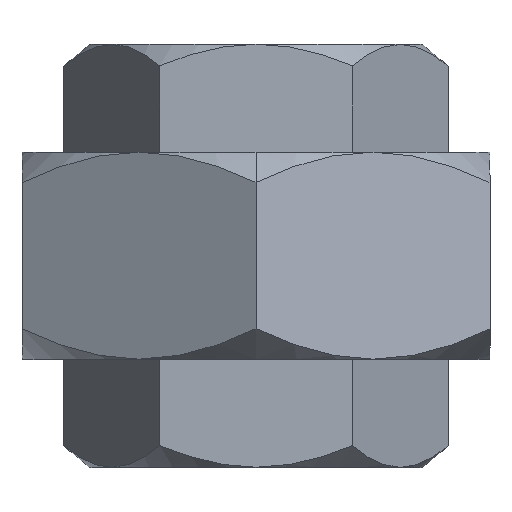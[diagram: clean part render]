
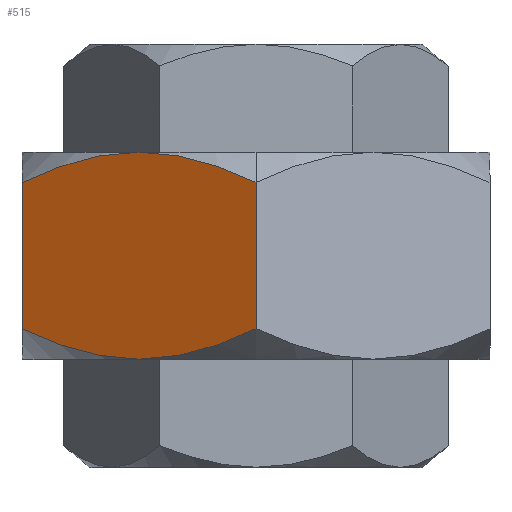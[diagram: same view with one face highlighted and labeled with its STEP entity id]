
A CAD part, top view. The second image highlights one B-rep face of the part: STEP entity #515.
In plain terms, the highlighted planar face has unit normal (-0.5, 0, 0.866).
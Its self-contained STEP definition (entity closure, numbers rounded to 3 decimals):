
#51 = B_SPLINE_CURVE_WITH_KNOTS ( 'NONE', 3,
 ( #2436, #2389, #2376, #2319, #2305, #2184, #2170, #2101, #2036, #1909 ),
 .UNSPECIFIED., .F., .F.,
 ( 4, 2, 2, 2, 4 ),
 ( 0., 0.008, 0.012, 0.013, 0.015 ),
 .UNSPECIFIED. ) ;
#57 = CARTESIAN_POINT ( 'NONE',  ( -20.149, -10.432, 18.389 ) ) ;
#98 = CARTESIAN_POINT ( 'NONE',  ( -2.092, 9.093, 28.815 ) ) ;
#106 = CARTESIAN_POINT ( 'NONE',  ( 0., -8.125, 30.022 ) ) ;
#181 = CARTESIAN_POINT ( 'NONE',  ( -13.558, 11.5, 22.195 ) ) ;
#223 = DIRECTION ( 'NONE',  ( -0.866, 0., -0.5 ) ) ;
#241 = DIRECTION ( 'NONE',  ( 0.5, 0., -0.866 ) ) ;
#260 = CARTESIAN_POINT ( 'NONE',  ( -26., 11.5, 15.011 ) ) ;
#277 = PLANE ( 'NONE',  #420 ) ;
#312 = DIRECTION ( 'NONE',  ( 0., -1., 0. ) ) ;
#332 = CARTESIAN_POINT ( 'NONE',  ( -17.436, -11.172, 19.955 ) ) ;
#367 = CARTESIAN_POINT ( 'NONE',  ( -3.694, 9.715, 27.89 ) ) ;
#420 = AXIS2_PLACEMENT_3D ( 'NONE', #260, #241, #223 ) ;
#463 = CARTESIAN_POINT ( 'NONE',  ( -13., -11.5, 22.517 ) ) ;
#469 = CARTESIAN_POINT ( 'NONE',  ( -14.118, 11.48, 21.871 ) ) ;
#515 = ADVANCED_FACE ( 'NONE', ( #1203 ), #277, .F. ) ;
#542 = CARTESIAN_POINT ( 'NONE',  ( -26., 8.125, 15.011 ) ) ;
#552 = CARTESIAN_POINT ( 'NONE',  ( -26., 8.125, 15.011 ) ) ;
#593 = CARTESIAN_POINT ( 'NONE',  ( -26., 11.5, 15.011 ) ) ;
#610 = VERTEX_POINT ( 'NONE', #758 ) ;
#618 = CARTESIAN_POINT ( 'NONE',  ( -15.237, -11.5, 21.225 ) ) ;
#638 = EDGE_CURVE ( 'NONE', #1005, #2586, #657, .T. ) ;
#657 = B_SPLINE_CURVE_WITH_KNOTS ( 'NONE', 3,
 ( #1419, #1197, #1066, #923, #854, #660, #367, #98, #2541, #2470 ),
 .UNSPECIFIED., .F., .F.,
 ( 4, 2, 2, 2, 4 ),
 ( 0.015, 0.023, 0.025, 0.027, 0.031 ),
 .UNSPECIFIED. ) ;
#660 = CARTESIAN_POINT ( 'NONE',  ( -4.232, 9.909, 27.579 ) ) ;
#689 = EDGE_CURVE ( 'NONE', #1695, #1763, #51, .T. ) ;
#738 = DIRECTION ( 'NONE',  ( 0., -1., 0. ) ) ;
#749 = CARTESIAN_POINT ( 'NONE',  ( -15.243, 11.399, 21.222 ) ) ;
#758 = CARTESIAN_POINT ( 'NONE',  ( -26., -8.125, 15.011 ) ) ;
#781 = ORIENTED_EDGE ( 'NONE', *, *, #2526, .F. ) ;
#791 = ORIENTED_EDGE ( 'NONE', *, *, #2488, .F. ) ;
#854 = CARTESIAN_POINT ( 'NONE',  ( -5.31, 10.268, 26.956 ) ) ;
#861 = LINE ( 'NONE', #593, #1724 ) ;
#863 = ORIENTED_EDGE ( 'NONE', *, *, #689, .F. ) ;
#887 = CARTESIAN_POINT ( 'NONE',  ( -13., -11.5, 22.517 ) ) ;
#923 = CARTESIAN_POINT ( 'NONE',  ( -5.851, 10.432, 26.644 ) ) ;
#976 = ORIENTED_EDGE ( 'NONE', *, *, #638, .F. ) ;
#997 = CARTESIAN_POINT ( 'NONE',  ( 0., 11.5, 30.022 ) ) ;
#1005 = VERTEX_POINT ( 'NONE', #1188 ) ;
#1009 = CARTESIAN_POINT ( 'NONE',  ( -15.806, 11.338, 20.897 ) ) ;
#1066 = CARTESIAN_POINT ( 'NONE',  ( -8.564, 11.172, 25.078 ) ) ;
#1099 = CARTESIAN_POINT ( 'NONE',  ( -26., -8.125, 15.011 ) ) ;
#1188 = CARTESIAN_POINT ( 'NONE',  ( -13., 11.5, 22.517 ) ) ;
#1197 = CARTESIAN_POINT ( 'NONE',  ( -10.763, 11.5, 23.808 ) ) ;
#1203 = FACE_OUTER_BOUND ( 'NONE', #1301, .T. ) ;
#1285 = LINE ( 'NONE', #997, #2266 ) ;
#1301 = EDGE_LOOP ( 'NONE', ( #863, #2366, #976, #791, #1766, #781 ) ) ;
#1302 = CARTESIAN_POINT ( 'NONE',  ( -17.476, 11.099, 19.933 ) ) ;
#1380 = CARTESIAN_POINT ( 'NONE',  ( -24.961, -8.629, 15.611 ) ) ;
#1405 = EDGE_CURVE ( 'NONE', #1499, #610, #861, .T. ) ;
#1419 = CARTESIAN_POINT ( 'NONE',  ( -13., 11.5, 22.517 ) ) ;
#1437 = B_SPLINE_CURVE_WITH_KNOTS ( 'NONE', 3,
 ( #542, #2109, #1852, #1583, #1302, #1009, #749, #469, #181, #2591 ),
 .UNSPECIFIED., .F., .F.,
 ( 4, 2, 2, 2, 4 ),
 ( 0., 0.008, 0.012, 0.013, 0.015 ),
 .UNSPECIFIED. ) ;
#1499 = VERTEX_POINT ( 'NONE', #552 ) ;
#1583 = CARTESIAN_POINT ( 'NONE',  ( -18.572, 10.864, 19.3 ) ) ;
#1660 = CARTESIAN_POINT ( 'NONE',  ( -23.908, -9.093, 16.219 ) ) ;
#1695 = VERTEX_POINT ( 'NONE', #106 ) ;
#1724 = VECTOR ( 'NONE', #312, 1000. ) ;
#1763 = VERTEX_POINT ( 'NONE', #463 ) ;
#1766 = ORIENTED_EDGE ( 'NONE', *, *, #1405, .T. ) ;
#1848 = B_SPLINE_CURVE_WITH_KNOTS ( 'NONE', 3,
 ( #887, #618, #332, #57, #2457, #2188, #1930, #1660, #1380, #1099 ),
 .UNSPECIFIED., .F., .F.,
 ( 4, 2, 2, 2, 4 ),
 ( 0.015, 0.023, 0.025, 0.027, 0.031 ),
 .UNSPECIFIED. ) ;
#1852 = CARTESIAN_POINT ( 'NONE',  ( -21.819, 9.973, 17.425 ) ) ;
#1909 = CARTESIAN_POINT ( 'NONE',  ( -13., -11.5, 22.517 ) ) ;
#1930 = CARTESIAN_POINT ( 'NONE',  ( -22.306, -9.715, 17.144 ) ) ;
#2014 = EDGE_CURVE ( 'NONE', #2586, #1695, #1285, .T. ) ;
#2036 = CARTESIAN_POINT ( 'NONE',  ( -12.442, -11.5, 22.839 ) ) ;
#2059 = CARTESIAN_POINT ( 'NONE',  ( 0., 8.125, 30.022 ) ) ;
#2101 = CARTESIAN_POINT ( 'NONE',  ( -11.882, -11.48, 23.162 ) ) ;
#2109 = CARTESIAN_POINT ( 'NONE',  ( -23.928, 9.129, 16.208 ) ) ;
#2170 = CARTESIAN_POINT ( 'NONE',  ( -10.757, -11.399, 23.812 ) ) ;
#2184 = CARTESIAN_POINT ( 'NONE',  ( -10.194, -11.338, 24.137 ) ) ;
#2188 = CARTESIAN_POINT ( 'NONE',  ( -21.768, -9.909, 17.454 ) ) ;
#2266 = VECTOR ( 'NONE', #738, 1000. ) ;
#2305 = CARTESIAN_POINT ( 'NONE',  ( -8.524, -11.099, 25.101 ) ) ;
#2319 = CARTESIAN_POINT ( 'NONE',  ( -7.428, -10.864, 25.734 ) ) ;
#2366 = ORIENTED_EDGE ( 'NONE', *, *, #2014, .F. ) ;
#2376 = CARTESIAN_POINT ( 'NONE',  ( -4.181, -9.973, 27.608 ) ) ;
#2389 = CARTESIAN_POINT ( 'NONE',  ( -2.072, -9.129, 28.826 ) ) ;
#2436 = CARTESIAN_POINT ( 'NONE',  ( 0., -8.125, 30.022 ) ) ;
#2457 = CARTESIAN_POINT ( 'NONE',  ( -20.69, -10.268, 18.077 ) ) ;
#2470 = CARTESIAN_POINT ( 'NONE',  ( 0., 8.125, 30.022 ) ) ;
#2488 = EDGE_CURVE ( 'NONE', #1499, #1005, #1437, .T. ) ;
#2526 = EDGE_CURVE ( 'NONE', #1763, #610, #1848, .T. ) ;
#2541 = CARTESIAN_POINT ( 'NONE',  ( -1.039, 8.629, 29.422 ) ) ;
#2586 = VERTEX_POINT ( 'NONE', #2059 ) ;
#2591 = CARTESIAN_POINT ( 'NONE',  ( -13., 11.5, 22.517 ) ) ;
